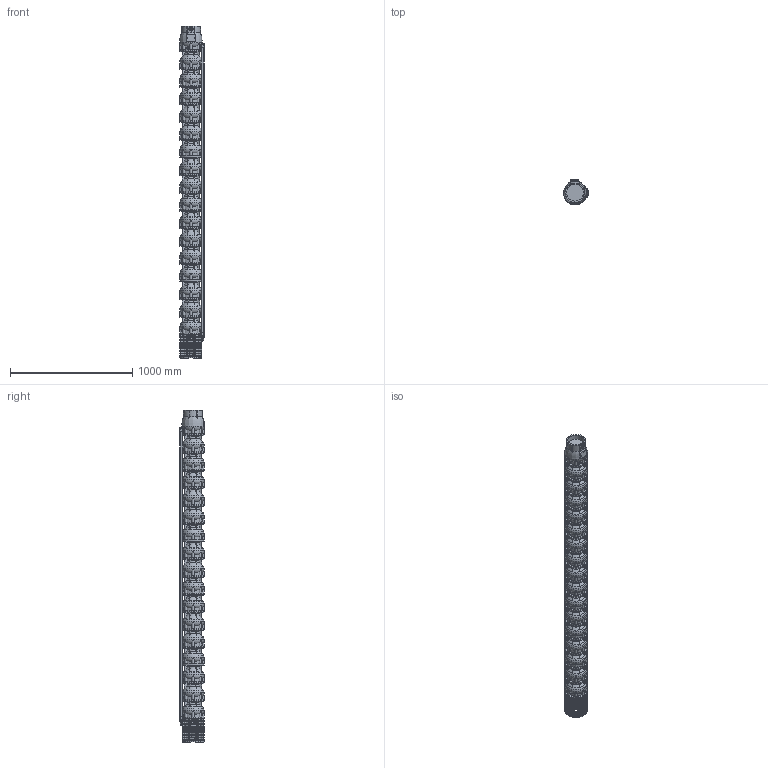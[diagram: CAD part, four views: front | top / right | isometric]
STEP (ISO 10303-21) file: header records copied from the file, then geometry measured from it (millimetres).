
FILE_DESCRIPTION(/* description */ ('Unknown'),/* implementation_level */ '2;1');
FILE_NAME(/* name */ 'VSI134-16_WR_M8-50_SLE',/* time_stamp */ '2023-09-14T14:56:16+02:00',/* author */ ('Unknown'),/* organization */ ('Unknown'),/* preprocessor_version */ 'ST-DEVELOPER v18.102',/* originating_system */ 'Solid Edge',/* authorisation */ 'Unknown');
FILE_SCHEMA (('TECHNICAL_DATA_PACKAGING','AUTOMOTIVE_DESIGN {1 0 10303 214 3 1 1}'));
Products named in the file (11): VSI134-16_WR_M8-50_SLE; VSI134_testata; VSI134_diffusore; VSI134_supporto_8×8; VSI134_filtro_A; VSI134_filtro_B; VSI134_terminale_top_copricavo_basso; VSI134_terminale_bottom_copricavo_basso; LOW 134-16; M5X8_UNI7687; VSI134_giunto_8×8
Assembly tree (39 placements, depth 2):
  VSI134-16_WR_M8-50_SLE
    VSI134_testata
    VSI134_diffusore  x16
    VSI134_supporto_8×8
    VSI134_filtro_A
    VSI134_filtro_B
    VSI134_terminale_top_copricavo_basso  x2
    VSI134_terminale_bottom_copricavo_basso  x2
    LOW 134-16  x2
    M5X8_UNI7687  x12
    VSI134_giunto_8×8
Bounding box: 201.57 x 202.09 x 2717 mm (x, y, z)
Volume: 50538461 mm3; surface area: 4134654.3 mm2
Topology: 78 solids, 80 shells, 5257 faces, 14833 edges, 9904 vertices
Faces by surface type: plane 3714, torus 744, cylinder 683, cone 71, bspline 31, sphere 14
Full cylindrical faces by diameter (mm): 2.4 x2, 3 x2, 4.2 x16, 5 x12, 5.5 x8, 26 x1, 44 x1, 69 x1, 74 x1, 98 x1, 135.472 x1, 157 x1, 182 x17
Entity records: 85625 total; most frequent: CARTESIAN_POINT 18372, ORIENTED_EDGE 14056, DIRECTION 13508, EDGE_CURVE 7028, VERTEX_POINT 4730, AXIS2_PLACEMENT_3D 4605, LINE 4298, VECTOR 4298
